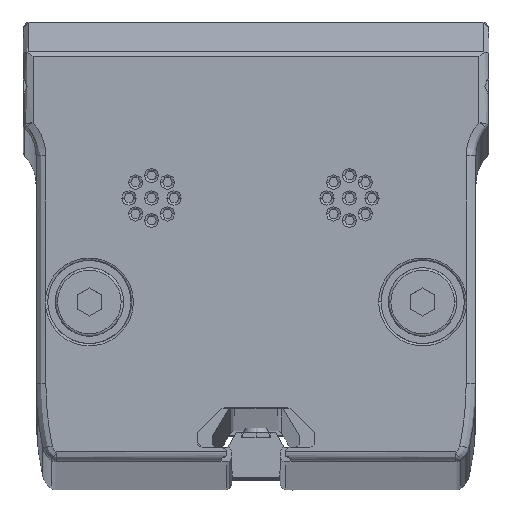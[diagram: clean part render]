
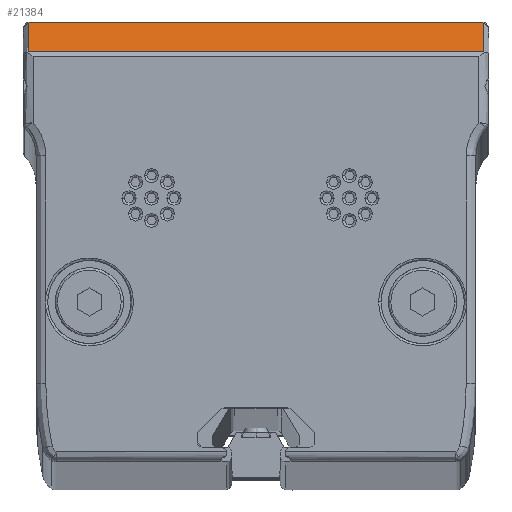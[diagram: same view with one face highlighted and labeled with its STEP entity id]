
A CAD part, top view. The second image highlights one B-rep face of the part: STEP entity #21384.
In plain terms, the highlighted planar face has unit normal (0, 0.858, 0.514).
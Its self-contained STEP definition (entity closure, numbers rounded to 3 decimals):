
#852 = CARTESIAN_POINT ( 'NONE',  ( 23.274, 22.429, 1629.914 ) ) ;
#3549 = ORIENTED_EDGE ( 'NONE', *, *, #29519, .T. ) ;
#3834 = EDGE_CURVE ( 'NONE', #22728, #18564, #24565, .T. ) ;
#3849 = CARTESIAN_POINT ( 'NONE',  ( -23.315, 22.329, 1630.08 ) ) ;
#3850 = EDGE_CURVE ( 'NONE', #16489, #27146, #6593, .T. ) ;
#4043 = CARTESIAN_POINT ( 'NONE',  ( -23.215, 22.429, 1629.914 ) ) ;
#4334 = DIRECTION ( 'NONE',  ( 0., 0.514, -0.857 ) ) ;
#4357 = CARTESIAN_POINT ( 'NONE',  ( -23.215, 22.429, 1629.914 ) ) ;
#4822 = CARTESIAN_POINT ( 'NONE',  ( 23.215, 22.429, 1629.914 ) ) ;
#4857 = CARTESIAN_POINT ( 'NONE',  ( 23.82, 19.433, 1634.907 ) ) ;
#5161 = EDGE_CURVE ( 'NONE', #22325, #22728, #18084, .T. ) ;
#5963 = EDGE_CURVE ( 'NONE', #9228, #16489, #25501, .T. ) ;
#6471 = DIRECTION ( 'NONE',  ( -1., 0., 0. ) ) ;
#6593 = LINE ( 'NONE', #15794, #18367 ) ;
#6748 = CARTESIAN_POINT ( 'NONE',  ( -23.274, 22.429, 1629.914 ) ) ;
#6902 = VECTOR ( 'NONE', #13162, 1000. ) ;
#8482 = CARTESIAN_POINT ( 'NONE',  ( -23.315, 19.287, 1635.15 ) ) ;
#8910 = CARTESIAN_POINT ( 'NONE',  ( 23.82, 19.287, 1635.15 ) ) ;
#9228 = VERTEX_POINT ( 'NONE', #14924 ) ;
#9653 = DIRECTION ( 'NONE',  ( 1., 0., 0. ) ) ;
#10036 = CARTESIAN_POINT ( 'NONE',  ( 23.215, 22.429, 1629.914 ) ) ;
#11159 = PLANE ( 'NONE',  #12368 ) ;
#11239 = VECTOR ( 'NONE', #9653, 1000. ) ;
#11743 = CARTESIAN_POINT ( 'NONE',  ( 23.215, 22.429, 1629.914 ) ) ;
#12368 = AXIS2_PLACEMENT_3D ( 'NONE', #8910, #18122, #27301 ) ;
#12861 = LINE ( 'NONE', #8482, #6902 ) ;
#13162 = DIRECTION ( 'NONE',  ( 0., -0.514, 0.857 ) ) ;
#13438 = FACE_OUTER_BOUND ( 'NONE', #16978, .T. ) ;
#13717 = CARTESIAN_POINT ( 'NONE',  ( -23.215, 22.429, 1629.914 ) ) ;
#14327 = ORIENTED_EDGE ( 'NONE', *, *, #3850, .T. ) ;
#14356 =( BOUNDED_CURVE ( )  B_SPLINE_CURVE ( 3, ( #4822, #21239, #11743, #18546 ),
 .UNSPECIFIED., .F., .T. ) 
 B_SPLINE_CURVE_WITH_KNOTS ( ( 4, 4 ),
 ( 6.283, 6.283 ),
 .UNSPECIFIED. ) 
 CURVE ( )  GEOMETRIC_REPRESENTATION_ITEM ( )  RATIONAL_B_SPLINE_CURVE ( ( 1., 1., 1., 1. ) ) 
 REPRESENTATION_ITEM ( '' )  );
#14588 = CARTESIAN_POINT ( 'NONE',  ( 23.315, 22.387, 1629.983 ) ) ;
#14924 = CARTESIAN_POINT ( 'NONE',  ( -23.315, 19.433, 1634.907 ) ) ;
#15615 = VERTEX_POINT ( 'NONE', #16007 ) ;
#15794 = CARTESIAN_POINT ( 'NONE',  ( 23.315, 19.287, 1635.15 ) ) ;
#15953 = CARTESIAN_POINT ( 'NONE',  ( -23.315, 22.387, 1629.983 ) ) ;
#16007 = CARTESIAN_POINT ( 'NONE',  ( 23.215, 22.429, 1629.914 ) ) ;
#16118 = EDGE_CURVE ( 'NONE', #27146, #15615, #23599, .T. ) ;
#16489 = VERTEX_POINT ( 'NONE', #28517 ) ;
#16978 = EDGE_LOOP ( 'NONE', ( #21591, #14327, #19772, #3549, #17482, #21443, #18721 ) ) ;
#17482 = ORIENTED_EDGE ( 'NONE', *, *, #5161, .T. ) ;
#17533 = CARTESIAN_POINT ( 'NONE',  ( 23.215, 22.429, 1629.914 ) ) ;
#18084 = LINE ( 'NONE', #13717, #24687 ) ;
#18122 = DIRECTION ( 'NONE',  ( 0., -0.857, -0.514 ) ) ;
#18367 = VECTOR ( 'NONE', #4334, 1000. ) ;
#18546 = CARTESIAN_POINT ( 'NONE',  ( 23.215, 22.429, 1629.914 ) ) ;
#18564 = VERTEX_POINT ( 'NONE', #3849 ) ;
#18721 = ORIENTED_EDGE ( 'NONE', *, *, #29034, .T. ) ;
#19772 = ORIENTED_EDGE ( 'NONE', *, *, #16118, .T. ) ;
#20872 = CARTESIAN_POINT ( 'NONE',  ( 23.315, 22.329, 1630.08 ) ) ;
#21239 = CARTESIAN_POINT ( 'NONE',  ( 23.215, 22.429, 1629.914 ) ) ;
#21384 = ADVANCED_FACE ( 'NONE', ( #13438 ), #11159, .F. ) ;
#21443 = ORIENTED_EDGE ( 'NONE', *, *, #3834, .T. ) ;
#21591 = ORIENTED_EDGE ( 'NONE', *, *, #5963, .T. ) ;
#22325 = VERTEX_POINT ( 'NONE', #17533 ) ;
#22728 = VERTEX_POINT ( 'NONE', #4357 ) ;
#23599 =( BOUNDED_CURVE ( )  B_SPLINE_CURVE ( 3, ( #26041, #14588, #852, #10036 ),
 .UNSPECIFIED., .F., .T. ) 
 B_SPLINE_CURVE_WITH_KNOTS ( ( 4, 4 ),
 ( 4.712, 6.283 ),
 .UNSPECIFIED. ) 
 CURVE ( )  GEOMETRIC_REPRESENTATION_ITEM ( )  RATIONAL_B_SPLINE_CURVE ( ( 1., 0.805, 0.805, 1. ) ) 
 REPRESENTATION_ITEM ( '' )  );
#24565 =( BOUNDED_CURVE ( )  B_SPLINE_CURVE ( 3, ( #4043, #6748, #15953, #25136 ),
 .UNSPECIFIED., .F., .T. ) 
 B_SPLINE_CURVE_WITH_KNOTS ( ( 4, 4 ),
 ( 0., 1.571 ),
 .UNSPECIFIED. ) 
 CURVE ( )  GEOMETRIC_REPRESENTATION_ITEM ( )  RATIONAL_B_SPLINE_CURVE ( ( 1., 0.805, 0.805, 1. ) ) 
 REPRESENTATION_ITEM ( '' )  );
#24687 = VECTOR ( 'NONE', #6471, 1000. ) ;
#25136 = CARTESIAN_POINT ( 'NONE',  ( -23.315, 22.329, 1630.08 ) ) ;
#25501 = LINE ( 'NONE', #4857, #11239 ) ;
#26041 = CARTESIAN_POINT ( 'NONE',  ( 23.315, 22.329, 1630.08 ) ) ;
#27146 = VERTEX_POINT ( 'NONE', #20872 ) ;
#27301 = DIRECTION ( 'NONE',  ( 0., 0.514, -0.857 ) ) ;
#28517 = CARTESIAN_POINT ( 'NONE',  ( 23.315, 19.433, 1634.907 ) ) ;
#29034 = EDGE_CURVE ( 'NONE', #18564, #9228, #12861, .T. ) ;
#29519 = EDGE_CURVE ( 'NONE', #15615, #22325, #14356, .T. ) ;
